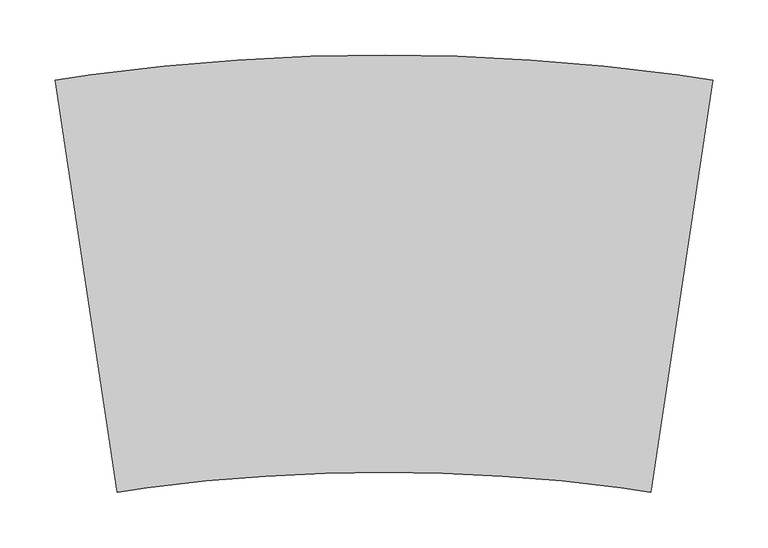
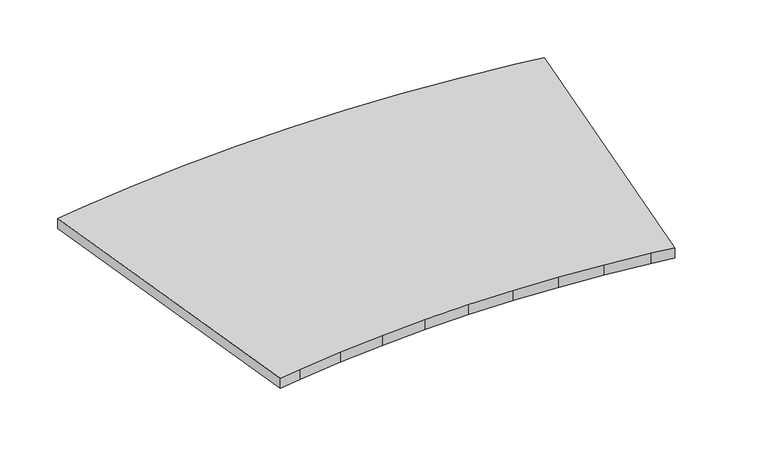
"""IFC4 building model written with IfcOpenShell, lengths in millimetres: proxy geometry, TECHNO_Решетка_R : РАП_Алюминиевая продольная/Белый RAL 9016."""

from ifc_helpers import new_model, si_unit, frame, origin, place, context, project, spatial, polyline, outline, extrude, source, transform, mapped, element, save


def mechanical_equipment_bb0315a0(model_context):
    return source(origin(), model_context, "Body", "SweptSolid", [
        extrude(outline(polyline([(297.5110721, 166.534493), (241.3072594, -206.8592555), (214.6926784, -202.8531871), (161.2268952, -196.6123489), (107.5834176, -192.1496878), (53.8213681, -189.4701222), (0.0, -188.5766054), (-53.8213681, -189.4701222), (-107.5834176, -192.1496878), (-161.2268952, -196.6123489), (-214.6926784, -202.8531871), (-241.3072594, -206.8592555), (-297.5110721, 166.534493), (-264.6975854, 171.4736305), (-198.7788786, 179.1680465), (-132.6410899, 184.6701234), (-66.3571123, 187.973797), (0.0, 189.0754263), (66.3571123, 187.973797), (132.6410899, 184.6701234), (198.7788786, 179.1680465), (264.6975854, 171.4736305), (297.5110721, 166.534493)])), frame((0.0, 0.0, -13.0), z_axis=(0.0, 0.0, 1.0), x_axis=(1.0, 0.0, 0.0)), (0.0, 0.0, 1.0), 13.0),
    ])


if __name__ == "__main__":
    model = new_model("IFC4")
    model_context = context("Model", 3, world=origin())
    ifc_project = project(units=[si_unit("LENGTHUNIT", "METRE", prefix="MILLI")], contexts=[model_context])
    site = spatial("IfcSite", under=ifc_project)
    building = spatial("IfcBuilding", under=site)
    placement = place(None, origin())
    mechanical_equipment_shape = mechanical_equipment_bb0315a0(model_context)
    element("IfcBuildingElementProxy", 1, Name="TECHNO_Решетка_R : РАП_Алюминиевая продольная/Белый RAL 9016", ObjectType="TECHNO_Решетка_R : РАП_Алюминиевая продольная/Белый RAL 9016", at=placement, inside=building, context=model_context, shape_type="MappedRepresentation", body=[
        mapped(mechanical_equipment_shape, transform((0.0, 0.0, 0.0), x_axis=(1.0, 0.0, 0.0), y_axis=(0.0, 1.0, 0.0), z_axis=(0.0, 0.0, 1.0))),
    ])
    save(model, "model.ifc")
